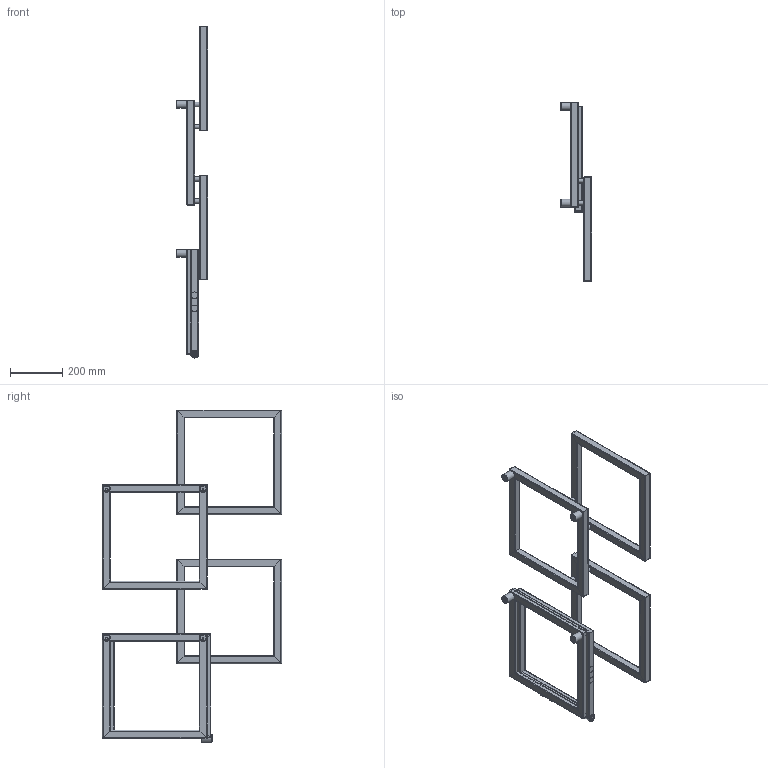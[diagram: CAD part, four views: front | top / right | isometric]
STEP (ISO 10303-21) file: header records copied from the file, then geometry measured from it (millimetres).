
FILE_DESCRIPTION( ( 'Unknown' ), '1' );
FILE_NAME( 'V:/DESIGN PROGRAM/LOCO/STP/LOCO 4 LEWY.stp', 'Unknown', ( 'Unknown' ), ( 'Unknown' ), 'PSStep 10.1', 'Unknown', ' ' );
FILE_SCHEMA( ( 'AUTOMOTIVE_DESIGN { 1 0 10303 214 1 1 1 1 }' ) );
Length unit declared in the file: millimetre
Products named in the file (16): Ramka 2; Ramka 3; Mocowanie L40; Ramka 2 LEWA; Assem1; czêœæ 1; czêœæ 3; czêœæ 5; czêœæ 6; czêœæ 2; MOCOWANIE L40-01; MOCOWANIE FASOLKA; MOCOWANIE L40-03; czêœæ 4; ｳｹcznik ; Zaslepka fi 30 z gwintem 
Bounding box: 120 x 685 x 1270 mm (x, y, z)
Volume: 2189430.1 mm3; surface area: 2868489.6 mm2
Topology: 62 solids, 62 shells, 873 faces, 2250 edges, 1500 vertices
Faces by surface type: plane 443, cylinder 394, cone 30, torus 6
Full cylindrical faces by diameter (mm): 4.917 x6, 12.5 x7, 15.5 x7, 16.3 x7, 16.5 x25, 17 x6, 17.2 x7, 18.631 x3, 20 x6, 22 x6, 22.7 x6, 23 x6, 25 x3, 25.25 x6, 29 x3, 30 x6
Entity records: 6515 total; most frequent: CARTESIAN_POINT 1014, DIRECTION 890, ORIENTED_EDGE 738, EDGE_CURVE 369, AXIS2_PLACEMENT_3D 341, VERTEX_POINT 261, EDGE_LOOP 224, LINE 208
